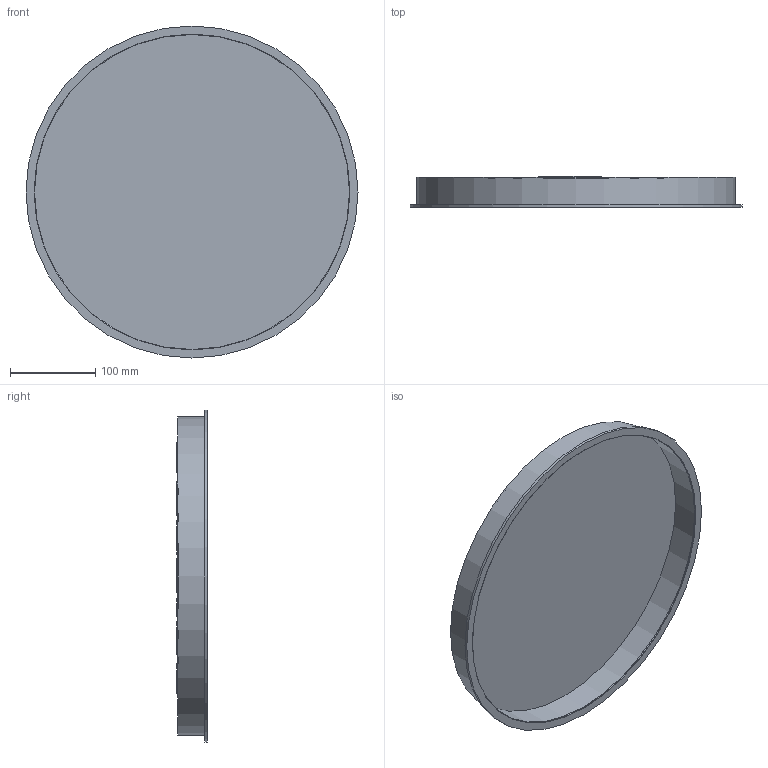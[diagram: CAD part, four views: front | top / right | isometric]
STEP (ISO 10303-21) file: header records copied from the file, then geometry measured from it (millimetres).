
FILE_DESCRIPTION( ( 'Unknown' ), '1' );
FILE_NAME( 'X:/Daten ( aktueller Bestand )/Projekte und Zeichnungen/Solid Edge/13 ISO-K Verbindungsbauteile und Zubehör/Flanschkappe Kunststoff/6046.stp', 'Unknown', ( 'Unknown' ), ( 'Unknown' ), 'XStep 1.0', 'Unknown', ' ' );
FILE_SCHEMA( ( 'automotive_design' ) );
Length unit declared in the file: millimetre
Products named in the file (1): 1
Bounding box: 390 x 36 x 390 mm (x, y, z)
Volume: 259045.6 mm3; surface area: 321707.6 mm2
Topology: 1 solids, 1 shells, 68 faces, 160 edges, 106 vertices
Faces by surface type: plane 49, extrusion 14, cylinder 4, torus 1
Full cylindrical faces by diameter (mm): 371 x2, 374 x1, 390 x1
Entity records: 2991 total; most frequent: CARTESIAN_POINT 1082, ORIENTED_EDGE 302, DIRECTION 185, EDGE_CURVE 151, B_SPLINE_CURVE_WITH_KNOTS 112, VERTEX_POINT 106, EDGE_LOOP 89, FACE_OUTER_BOUND 77
